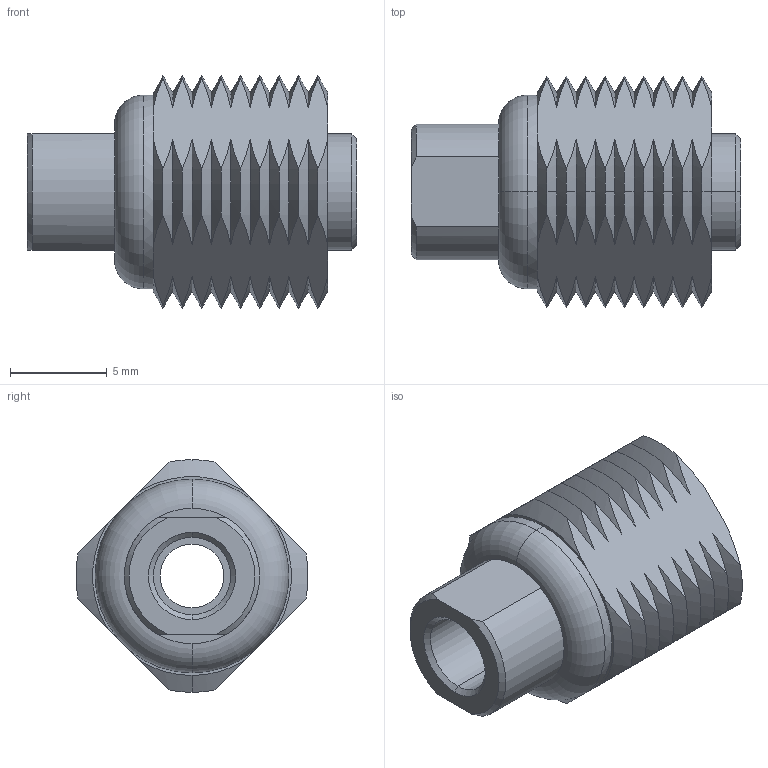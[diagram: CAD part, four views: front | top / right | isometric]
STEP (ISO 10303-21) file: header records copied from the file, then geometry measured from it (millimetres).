
FILE_DESCRIPTION (( 'STEP AP203' ), '1' );
FILE_NAME ('32790.W0140.step', '2013-07-26T15:09:47', ( 'Wixroyd' ), ( 'Wixroyd' ), 'SwSTEP 2.0', 'SolidWorks 2009', '' );
FILE_SCHEMA (( 'CONFIG_CONTROL_DESIGN' ));
Length unit declared in the file: millimetre
Products named in the file (3): 32790.W0140; Part1_32790.W0140; Part2_32790.W0140
Assembly tree (2 placements, depth 2):
  32790.W0140
    Part2_32790.W0140
    Part1_32790.W0140
Bounding box: 17 x 11.97 x 12 mm (x, y, z)
Volume: 873.5 mm3; surface area: 1441.8 mm2
Topology: 2 solids, 2 shells, 135 faces, 370 edges, 242 vertices
Faces by surface type: cone 98, plane 19, cylinder 16, torus 2
Entity records: 4795 total; most frequent: CARTESIAN_POINT 1196, ORIENTED_EDGE 740, DIRECTION 664, EDGE_CURVE 370, AXIS2_PLACEMENT_3D 302, VERTEX_POINT 242, CIRCLE 162, B_SPLINE_CURVE_WITH_KNOTS 148
